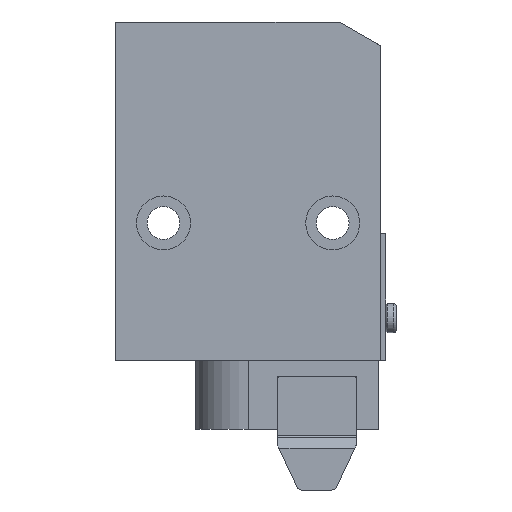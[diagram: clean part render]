
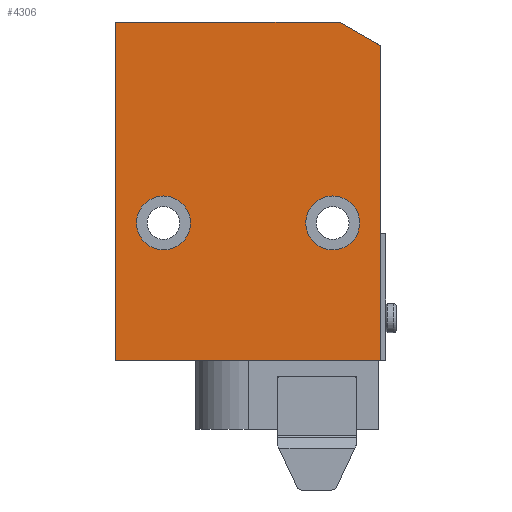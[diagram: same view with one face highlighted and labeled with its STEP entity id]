
A CAD part, front view. The second image highlights one B-rep face of the part: STEP entity #4306.
In plain terms, the highlighted planar face has unit normal (0, -1, 0).
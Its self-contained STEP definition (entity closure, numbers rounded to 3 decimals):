
#8 = AXIS2_PLACEMENT_3D ( 'NONE', #1499, #2363, #765 ) ;
#9 = EDGE_CURVE ( 'NONE', #4917, #3797, #4945, .T. ) ;
#11 = DIRECTION ( 'NONE',  ( 0., 1., 0. ) ) ;
#40 = ORIENTED_EDGE ( 'NONE', *, *, #3468, .T. ) ;
#45 = EDGE_LOOP ( 'NONE', ( #3333, #40 ) ) ;
#143 = CARTESIAN_POINT ( 'NONE',  ( 41., 0.5, 31.1 ) ) ;
#173 = LINE ( 'NONE', #1064, #1155 ) ;
#199 = AXIS2_PLACEMENT_3D ( 'NONE', #1975, #1195, #3096 ) ;
#234 = FACE_BOUND ( 'NONE', #45, .T. ) ;
#259 = DIRECTION ( 'NONE',  ( 0., 0., 1. ) ) ;
#283 = VERTEX_POINT ( 'NONE', #4916 ) ;
#311 = LINE ( 'NONE', #676, #2559 ) ;
#399 = ORIENTED_EDGE ( 'NONE', *, *, #478, .T. ) ;
#454 = DIRECTION ( 'NONE',  ( 0., 0., -1. ) ) ;
#462 = VERTEX_POINT ( 'NONE', #1228 ) ;
#478 = EDGE_CURVE ( 'NONE', #1577, #4917, #633, .T. ) ;
#531 = ORIENTED_EDGE ( 'NONE', *, *, #2835, .T. ) ;
#559 = CARTESIAN_POINT ( 'NONE',  ( 50., 0.5, 0. ) ) ;
#600 = AXIS2_PLACEMENT_3D ( 'NONE', #4819, #2402, #617 ) ;
#617 = DIRECTION ( 'NONE',  ( 0., 0., -1. ) ) ;
#633 = LINE ( 'NONE', #3751, #3959 ) ;
#642 = EDGE_CURVE ( 'NONE', #4580, #5268, #3064, .T. ) ;
#676 = CARTESIAN_POINT ( 'NONE',  ( 50., 0.5, 64. ) ) ;
#765 = DIRECTION ( 'NONE',  ( 0., 0., -1. ) ) ;
#1002 = CARTESIAN_POINT ( 'NONE',  ( 0., 0.5, 0. ) ) ;
#1064 = CARTESIAN_POINT ( 'NONE',  ( 0., 0.5, 64. ) ) ;
#1118 = EDGE_CURVE ( 'NONE', #3797, #462, #311, .T. ) ;
#1155 = VECTOR ( 'NONE', #4397, 1000. ) ;
#1169 = DIRECTION ( 'NONE',  ( 0., 1., 0. ) ) ;
#1195 = DIRECTION ( 'NONE',  ( 0., -1., 0. ) ) ;
#1228 = CARTESIAN_POINT ( 'NONE',  ( 50., 0.5, 59.5 ) ) ;
#1251 = EDGE_LOOP ( 'NONE', ( #1805, #3327 ) ) ;
#1499 = CARTESIAN_POINT ( 'NONE',  ( 9., 0.5, 26. ) ) ;
#1577 = VERTEX_POINT ( 'NONE', #2971 ) ;
#1733 = AXIS2_PLACEMENT_3D ( 'NONE', #5029, #11, #454 ) ;
#1757 = ORIENTED_EDGE ( 'NONE', *, *, #2035, .T. ) ;
#1805 = ORIENTED_EDGE ( 'NONE', *, *, #642, .T. ) ;
#1906 = DIRECTION ( 'NONE',  ( 1., 0., 0. ) ) ;
#1915 = CARTESIAN_POINT ( 'NONE',  ( 38.264, 0.5, 66.276 ) ) ;
#1975 = CARTESIAN_POINT ( 'NONE',  ( 0., 0.5, 0. ) ) ;
#2035 = EDGE_CURVE ( 'NONE', #283, #1577, #173, .T. ) ;
#2106 = DIRECTION ( 'NONE',  ( 0., 0., -1. ) ) ;
#2164 = ORIENTED_EDGE ( 'NONE', *, *, #9, .T. ) ;
#2240 = AXIS2_PLACEMENT_3D ( 'NONE', #3483, #1169, #5303 ) ;
#2268 = VERTEX_POINT ( 'NONE', #2782 ) ;
#2277 = CIRCLE ( 'NONE', #8, 5.1 ) ;
#2319 = CIRCLE ( 'NONE', #1733, 5.1 ) ;
#2363 = DIRECTION ( 'NONE',  ( 0., 1., 0. ) ) ;
#2402 = DIRECTION ( 'NONE',  ( 0., 1., 0. ) ) ;
#2537 = VECTOR ( 'NONE', #3615, 1000. ) ;
#2559 = VECTOR ( 'NONE', #259, 1000. ) ;
#2782 = CARTESIAN_POINT ( 'NONE',  ( 41., 0.5, 20.9 ) ) ;
#2835 = EDGE_CURVE ( 'NONE', #462, #283, #3768, .T. ) ;
#2971 = CARTESIAN_POINT ( 'NONE',  ( 0., 0.5, 64. ) ) ;
#3064 = CIRCLE ( 'NONE', #600, 5.1 ) ;
#3096 = DIRECTION ( 'NONE',  ( 0., 0., -1. ) ) ;
#3299 = PLANE ( 'NONE',  #199 ) ;
#3327 = ORIENTED_EDGE ( 'NONE', *, *, #4099, .T. ) ;
#3333 = ORIENTED_EDGE ( 'NONE', *, *, #4852, .T. ) ;
#3374 = CARTESIAN_POINT ( 'NONE',  ( 9., 0.5, 20.9 ) ) ;
#3436 = ORIENTED_EDGE ( 'NONE', *, *, #1118, .T. ) ;
#3468 = EDGE_CURVE ( 'NONE', #4320, #2268, #2319, .T. ) ;
#3483 = CARTESIAN_POINT ( 'NONE',  ( 41., 0.5, 26. ) ) ;
#3615 = DIRECTION ( 'NONE',  ( -0.866, 0., 0.5 ) ) ;
#3751 = CARTESIAN_POINT ( 'NONE',  ( 0., 0.5, 64. ) ) ;
#3768 = LINE ( 'NONE', #1915, #2537 ) ;
#3797 = VERTEX_POINT ( 'NONE', #559 ) ;
#3839 = FACE_BOUND ( 'NONE', #1251, .T. ) ;
#3844 = VECTOR ( 'NONE', #1906, 1000. ) ;
#3854 = CARTESIAN_POINT ( 'NONE',  ( 9., 0.5, 31.1 ) ) ;
#3959 = VECTOR ( 'NONE', #2106, 1000. ) ;
#4099 = EDGE_CURVE ( 'NONE', #5268, #4580, #2277, .T. ) ;
#4257 = CARTESIAN_POINT ( 'NONE',  ( 0., 0.5, 0. ) ) ;
#4306 = ADVANCED_FACE ( 'NONE', ( #4546, #234, #3839 ), #3299, .T. ) ;
#4320 = VERTEX_POINT ( 'NONE', #143 ) ;
#4397 = DIRECTION ( 'NONE',  ( -1., 0., 0. ) ) ;
#4539 = CIRCLE ( 'NONE', #2240, 5.1 ) ;
#4546 = FACE_OUTER_BOUND ( 'NONE', #5217, .T. ) ;
#4580 = VERTEX_POINT ( 'NONE', #3374 ) ;
#4819 = CARTESIAN_POINT ( 'NONE',  ( 9., 0.5, 26. ) ) ;
#4852 = EDGE_CURVE ( 'NONE', #2268, #4320, #4539, .T. ) ;
#4916 = CARTESIAN_POINT ( 'NONE',  ( 42.206, 0.5, 64. ) ) ;
#4917 = VERTEX_POINT ( 'NONE', #4257 ) ;
#4945 = LINE ( 'NONE', #1002, #3844 ) ;
#5029 = CARTESIAN_POINT ( 'NONE',  ( 41., 0.5, 26. ) ) ;
#5217 = EDGE_LOOP ( 'NONE', ( #3436, #531, #1757, #399, #2164 ) ) ;
#5268 = VERTEX_POINT ( 'NONE', #3854 ) ;
#5303 = DIRECTION ( 'NONE',  ( 0., 0., -1. ) ) ;
